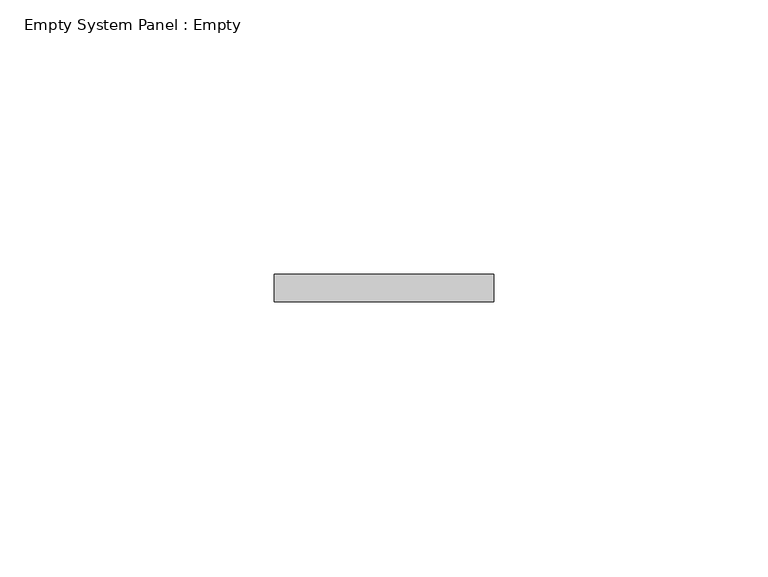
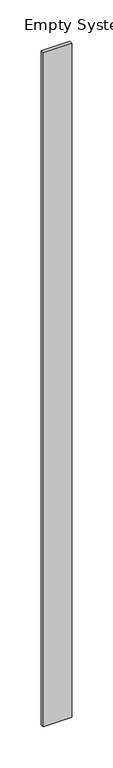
"""IFC4 building model written with IfcOpenShell, lengths in millimetres: plate geometry, Empty System Panel : Empty."""

from ifc_helpers import new_model, si_unit, origin, origin_with_axes, place, context, project, spatial, polyline, outline, extrude, source, transform, mapped, element, save


def empty_system_panel_empty_e2c7f9f0(model_context):
    return source(origin(), model_context, "Body", "SweptSolid", [
        extrude(outline(polyline([(19.9999998, 97.5), (-19.9999998, 97.5), (-19.9999998, 102.5), (19.9999998, 102.5), (19.9999998, 97.5)])), origin_with_axes(), (0.0, 0.0, 1.0), 1000.0),
    ])


if __name__ == "__main__":
    model = new_model("IFC4")
    model_context = context("Model", 3, world=origin())
    ifc_project = project(units=[si_unit("LENGTHUNIT", "METRE", prefix="MILLI")], contexts=[model_context])
    site = spatial("IfcSite", under=ifc_project)
    building = spatial("IfcBuilding", under=site)
    placement = place(None, origin())
    empty_system_panel_empty_shape = empty_system_panel_empty_e2c7f9f0(model_context)
    element("IfcPlate", 1, ObjectType="Empty System Panel : Empty", at=placement, inside=building, context=model_context, shape_type="MappedRepresentation", body=[
        mapped(empty_system_panel_empty_shape, transform((0.0, 0.0, 0.0), x_axis=(1.0, 0.0, 0.0), y_axis=(0.0, 1.0, 0.0), z_axis=(0.0, 0.0, 1.0))),
    ])
    save(model, "model.ifc")
